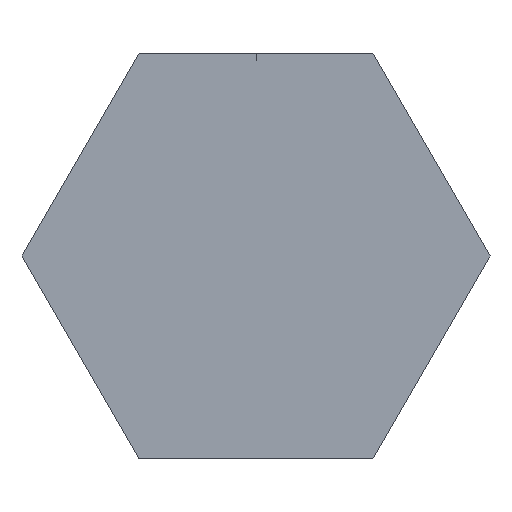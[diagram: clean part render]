
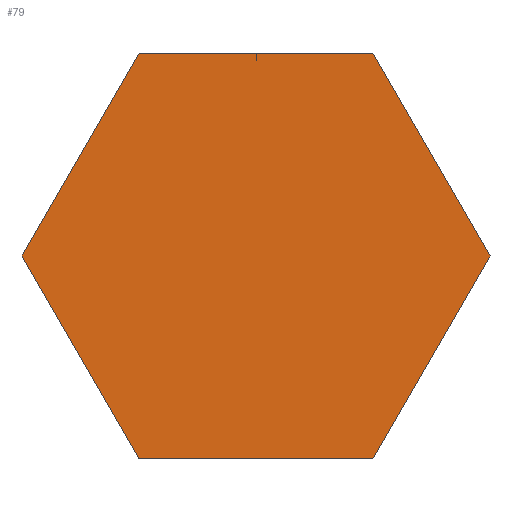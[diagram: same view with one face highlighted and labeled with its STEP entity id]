
A CAD part, front view. The second image highlights one B-rep face of the part: STEP entity #79.
In plain terms, the highlighted planar face has unit normal (0, -1, 0) as drawn and (-1, 0, 0) by its records, which use the part's own axes.
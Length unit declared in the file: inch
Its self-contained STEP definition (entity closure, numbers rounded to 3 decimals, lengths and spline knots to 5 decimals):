
#18 = VERTEX_POINT ( 'NONE', #1881 ) ;
#45 = CARTESIAN_POINT ( 'NONE',  ( 0., 0.57735, 0. ) ) ;
#68 = ORIENTED_EDGE ( 'NONE', *, *, #141, .F. ) ;
#79 = ADVANCED_FACE ( 'NONE', ( #1591 ), #676, .F. ) ;
#80 = CARTESIAN_POINT ( 'NONE',  ( 0., -0.57735, 0. ) ) ;
#141 = EDGE_CURVE ( 'NONE', #408, #18, #143, .T. ) ;
#143 = LINE ( 'NONE', #165, #471 ) ;
#165 = CARTESIAN_POINT ( 'NONE',  ( 0., -0.57735, 0. ) ) ;
#172 = EDGE_CURVE ( 'NONE', #534, #378, #1586, .T. ) ;
#198 = DIRECTION ( 'NONE',  ( 0., 1., 0. ) ) ;
#331 = CARTESIAN_POINT ( 'NONE',  ( 0., 0.28868, 0.5 ) ) ;
#360 = CARTESIAN_POINT ( 'NONE',  ( 0., 0.28868, 0.5 ) ) ;
#363 = LINE ( 'NONE', #1471, #1642 ) ;
#378 = VERTEX_POINT ( 'NONE', #1996 ) ;
#408 = VERTEX_POINT ( 'NONE', #80 ) ;
#471 = VECTOR ( 'NONE', #1804, 39.37008 ) ;
#514 = VECTOR ( 'NONE', #583, 39.37008 ) ;
#530 = LINE ( 'NONE', #1613, #1896 ) ;
#534 = VERTEX_POINT ( 'NONE', #331 ) ;
#583 = DIRECTION ( 'NONE',  ( 0., -0.5, 0.866 ) ) ;
#676 = PLANE ( 'NONE',  #1446 ) ;
#716 = EDGE_LOOP ( 'NONE', ( #875, #929, #1416, #1581, #68, #717 ) ) ;
#717 = ORIENTED_EDGE ( 'NONE', *, *, #934, .F. ) ;
#875 = ORIENTED_EDGE ( 'NONE', *, *, #172, .F. ) ;
#905 = DIRECTION ( 'NONE',  ( 0., -1., 0. ) ) ;
#929 = ORIENTED_EDGE ( 'NONE', *, *, #2266, .F. ) ;
#934 = EDGE_CURVE ( 'NONE', #378, #408, #530, .T. ) ;
#1401 = CARTESIAN_POINT ( 'NONE',  ( 0., -0.28868, 0.5 ) ) ;
#1405 = VECTOR ( 'NONE', #905, 39.37008 ) ;
#1416 = ORIENTED_EDGE ( 'NONE', *, *, #2082, .F. ) ;
#1446 = AXIS2_PLACEMENT_3D ( 'NONE', #1401, #1763, #2309 ) ;
#1467 = CARTESIAN_POINT ( 'NONE',  ( 0., 0.57735, 0. ) ) ;
#1471 = CARTESIAN_POINT ( 'NONE',  ( 0., 0.28868, -0.5 ) ) ;
#1473 = VERTEX_POINT ( 'NONE', #1467 ) ;
#1478 = CARTESIAN_POINT ( 'NONE',  ( 0., 0.28868, -0.5 ) ) ;
#1497 = VECTOR ( 'NONE', #198, 39.37008 ) ;
#1581 = ORIENTED_EDGE ( 'NONE', *, *, #2234, .F. ) ;
#1586 = LINE ( 'NONE', #360, #1405 ) ;
#1591 = FACE_OUTER_BOUND ( 'NONE', #716, .T. ) ;
#1613 = CARTESIAN_POINT ( 'NONE',  ( 0., -0.28868, 0.5 ) ) ;
#1614 = DIRECTION ( 'NONE',  ( 0., 0.5, 0.866 ) ) ;
#1642 = VECTOR ( 'NONE', #1614, 39.37008 ) ;
#1763 = DIRECTION ( 'NONE',  ( 1., 0., 0. ) ) ;
#1804 = DIRECTION ( 'NONE',  ( 0., 0.5, -0.866 ) ) ;
#1812 = LINE ( 'NONE', #2171, #1497 ) ;
#1881 = CARTESIAN_POINT ( 'NONE',  ( 0., -0.28868, -0.5 ) ) ;
#1896 = VECTOR ( 'NONE', #2331, 39.37008 ) ;
#1996 = CARTESIAN_POINT ( 'NONE',  ( 0., -0.28868, 0.5 ) ) ;
#2032 = LINE ( 'NONE', #45, #514 ) ;
#2082 = EDGE_CURVE ( 'NONE', #2267, #1473, #363, .T. ) ;
#2171 = CARTESIAN_POINT ( 'NONE',  ( 0., -0.28868, -0.5 ) ) ;
#2234 = EDGE_CURVE ( 'NONE', #18, #2267, #1812, .T. ) ;
#2266 = EDGE_CURVE ( 'NONE', #1473, #534, #2032, .T. ) ;
#2267 = VERTEX_POINT ( 'NONE', #1478 ) ;
#2309 = DIRECTION ( 'NONE',  ( 0., 0., -1. ) ) ;
#2331 = DIRECTION ( 'NONE',  ( 0., -0.5, -0.866 ) ) ;
